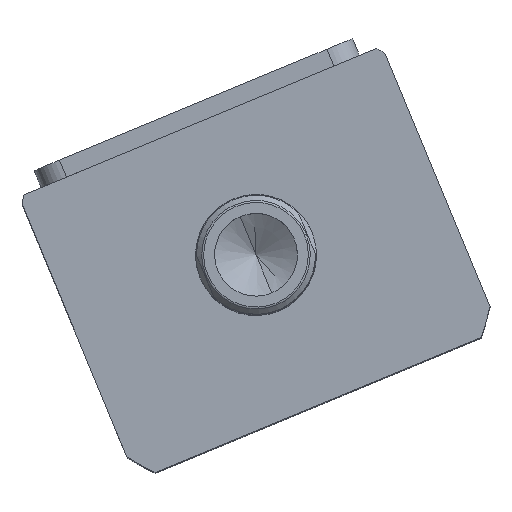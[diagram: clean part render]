
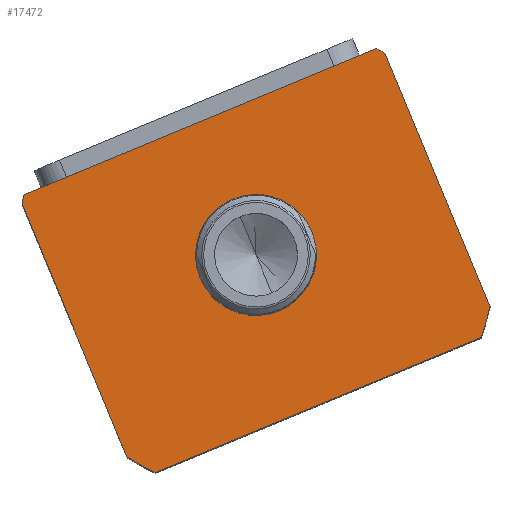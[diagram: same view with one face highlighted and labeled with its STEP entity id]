
A CAD part, top view. The second image highlights one B-rep face of the part: STEP entity #17472.
In plain terms, the highlighted planar face has unit normal (0, 0, 1) as drawn and (0, 0, -1) by its records, which use the part's own axes.
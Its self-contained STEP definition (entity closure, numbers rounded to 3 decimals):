
#128 = ORIENTED_EDGE ( 'NONE', *, *, #7473, .T. ) ;
#148 = ORIENTED_EDGE ( 'NONE', *, *, #12252, .F. ) ;
#437 = CARTESIAN_POINT ( 'NONE',  ( 51.198, -44.5, 0. ) ) ;
#767 = AXIS2_PLACEMENT_3D ( 'NONE', #3512, #13818, #4979 ) ;
#786 = DIRECTION ( 'NONE',  ( 0., 0., 1. ) ) ;
#1044 = AXIS2_PLACEMENT_3D ( 'NONE', #13683, #4850, #15134 ) ;
#1281 = VERTEX_POINT ( 'NONE', #11476 ) ;
#1306 = EDGE_LOOP ( 'NONE', ( #128, #2208 ) ) ;
#1438 = EDGE_CURVE ( 'NONE', #5434, #1644, #5741, .T. ) ;
#1583 = VERTEX_POINT ( 'NONE', #9186 ) ;
#1644 = VERTEX_POINT ( 'NONE', #7787 ) ;
#2045 = LINE ( 'NONE', #12029, #13346 ) ;
#2086 = CARTESIAN_POINT ( 'NONE',  ( -57., -44.5, 0. ) ) ;
#2208 = ORIENTED_EDGE ( 'NONE', *, *, #8525, .T. ) ;
#2394 = CIRCLE ( 'NONE', #1044, 17.5 ) ;
#2716 = LINE ( 'NONE', #9810, #17841 ) ;
#3121 = ORIENTED_EDGE ( 'NONE', *, *, #1438, .F. ) ;
#3210 = AXIS2_PLACEMENT_3D ( 'NONE', #11073, #10885, #5195 ) ;
#3259 = DIRECTION ( 'NONE',  ( -1., 0., 0. ) ) ;
#3512 = CARTESIAN_POINT ( 'NONE',  ( 0., 2.5, 0. ) ) ;
#3720 = PLANE ( 'NONE',  #3210 ) ;
#3967 = EDGE_CURVE ( 'NONE', #10597, #15962, #7092, .T. ) ;
#4010 = EDGE_CURVE ( 'NONE', #1644, #12134, #2716, .T. ) ;
#4712 = CARTESIAN_POINT ( 'NONE',  ( -17.5, 2.5, 0. ) ) ;
#4716 = ORIENTED_EDGE ( 'NONE', *, *, #18210, .F. ) ;
#4850 = DIRECTION ( 'NONE',  ( 0., 0., 1. ) ) ;
#4927 = ORIENTED_EDGE ( 'NONE', *, *, #4010, .F. ) ;
#4946 = CIRCLE ( 'NONE', #7707, 17.5 ) ;
#4979 = DIRECTION ( 'NONE',  ( 1., 0., 0. ) ) ;
#5195 = DIRECTION ( 'NONE',  ( 1., 0., 0. ) ) ;
#5434 = VERTEX_POINT ( 'NONE', #437 ) ;
#5741 = CIRCLE ( 'NONE', #12008, 69.5 ) ;
#5800 = CIRCLE ( 'NONE', #15443, 69.5 ) ;
#6122 = LINE ( 'NONE', #2086, #17798 ) ;
#6394 = CARTESIAN_POINT ( 'NONE',  ( -57., 42.265, 0. ) ) ;
#6711 = EDGE_CURVE ( 'NONE', #17438, #5434, #6122, .T. ) ;
#7092 = LINE ( 'NONE', #11292, #10547 ) ;
#7352 = DIRECTION ( 'NONE',  ( 0., 0., 1. ) ) ;
#7425 = CARTESIAN_POINT ( 'NONE',  ( 0., 2.5, 0. ) ) ;
#7473 = EDGE_CURVE ( 'NONE', #1281, #11888, #4946, .T. ) ;
#7530 = EDGE_LOOP ( 'NONE', ( #16638, #4927, #3121, #10516, #12112, #17559, #148, #4716 ) ) ;
#7707 = AXIS2_PLACEMENT_3D ( 'NONE', #7425, #17634, #8887 ) ;
#7787 = CARTESIAN_POINT ( 'NONE',  ( 57., -37.265, 0. ) ) ;
#7928 = CARTESIAN_POINT ( 'NONE',  ( -51.198, -44.5, 0. ) ) ;
#8512 = AXIS2_PLACEMENT_3D ( 'NONE', #8816, #19019, #10302 ) ;
#8525 = EDGE_CURVE ( 'NONE', #11888, #1281, #2394, .T. ) ;
#8816 = CARTESIAN_POINT ( 'NONE',  ( 0., 2.5, 0. ) ) ;
#8862 = CARTESIAN_POINT ( 'NONE',  ( -57., -37.265, 0. ) ) ;
#8887 = DIRECTION ( 'NONE',  ( 1., 0., 0. ) ) ;
#8950 = EDGE_CURVE ( 'NONE', #15962, #17438, #17046, .T. ) ;
#9186 = CARTESIAN_POINT ( 'NONE',  ( 55.374, 44.5, 0. ) ) ;
#9595 = CARTESIAN_POINT ( 'NONE',  ( 0., 2.5, 0. ) ) ;
#9810 = CARTESIAN_POINT ( 'NONE',  ( 57., 44.5, 0. ) ) ;
#10302 = DIRECTION ( 'NONE',  ( 1., 0., 0. ) ) ;
#10516 = ORIENTED_EDGE ( 'NONE', *, *, #6711, .F. ) ;
#10547 = VECTOR ( 'NONE', #17059, 1000. ) ;
#10597 = VERTEX_POINT ( 'NONE', #6394 ) ;
#10833 = CARTESIAN_POINT ( 'NONE',  ( 57., 42.265, 0. ) ) ;
#10885 = DIRECTION ( 'NONE',  ( 0., 0., 1. ) ) ;
#11073 = CARTESIAN_POINT ( 'NONE',  ( 0., 0., 0. ) ) ;
#11081 = DIRECTION ( 'NONE',  ( 1., 0., 0. ) ) ;
#11292 = CARTESIAN_POINT ( 'NONE',  ( -57., 44.5, 0. ) ) ;
#11336 = CIRCLE ( 'NONE', #767, 69.5 ) ;
#11476 = CARTESIAN_POINT ( 'NONE',  ( 17.5, 2.5, 0. ) ) ;
#11888 = VERTEX_POINT ( 'NONE', #4712 ) ;
#12008 = AXIS2_PLACEMENT_3D ( 'NONE', #16126, #7352, #17564 ) ;
#12029 = CARTESIAN_POINT ( 'NONE',  ( -57., 44.5, 0. ) ) ;
#12112 = ORIENTED_EDGE ( 'NONE', *, *, #8950, .F. ) ;
#12134 = VERTEX_POINT ( 'NONE', #10833 ) ;
#12252 = EDGE_CURVE ( 'NONE', #16269, #10597, #5800, .T. ) ;
#13122 = FACE_OUTER_BOUND ( 'NONE', #7530, .T. ) ;
#13346 = VECTOR ( 'NONE', #3259, 1000. ) ;
#13683 = CARTESIAN_POINT ( 'NONE',  ( 0., 2.5, 0. ) ) ;
#13818 = DIRECTION ( 'NONE',  ( 0., 0., 1. ) ) ;
#13986 = EDGE_CURVE ( 'NONE', #12134, #1583, #11336, .T. ) ;
#15134 = DIRECTION ( 'NONE',  ( 1., 0., 0. ) ) ;
#15443 = AXIS2_PLACEMENT_3D ( 'NONE', #9595, #786, #11081 ) ;
#15962 = VERTEX_POINT ( 'NONE', #8862 ) ;
#16126 = CARTESIAN_POINT ( 'NONE',  ( 0., 2.5, 0. ) ) ;
#16269 = VERTEX_POINT ( 'NONE', #18912 ) ;
#16638 = ORIENTED_EDGE ( 'NONE', *, *, #13986, .F. ) ;
#16750 = DIRECTION ( 'NONE',  ( 1., 0., 0. ) ) ;
#17046 = CIRCLE ( 'NONE', #8512, 69.5 ) ;
#17059 = DIRECTION ( 'NONE',  ( 0., -1., 0. ) ) ;
#17125 = DIRECTION ( 'NONE',  ( 0., 1., 0. ) ) ;
#17413 = FACE_BOUND ( 'NONE', #1306, .T. ) ;
#17438 = VERTEX_POINT ( 'NONE', #7928 ) ;
#17472 = ADVANCED_FACE ( 'NONE', ( #17413, #13122 ), #3720, .F. ) ;
#17559 = ORIENTED_EDGE ( 'NONE', *, *, #3967, .F. ) ;
#17564 = DIRECTION ( 'NONE',  ( 1., 0., 0. ) ) ;
#17634 = DIRECTION ( 'NONE',  ( 0., 0., 1. ) ) ;
#17798 = VECTOR ( 'NONE', #16750, 1000. ) ;
#17841 = VECTOR ( 'NONE', #17125, 1000. ) ;
#18210 = EDGE_CURVE ( 'NONE', #1583, #16269, #2045, .T. ) ;
#18912 = CARTESIAN_POINT ( 'NONE',  ( -55.374, 44.5, 0. ) ) ;
#19019 = DIRECTION ( 'NONE',  ( 0., 0., 1. ) ) ;
